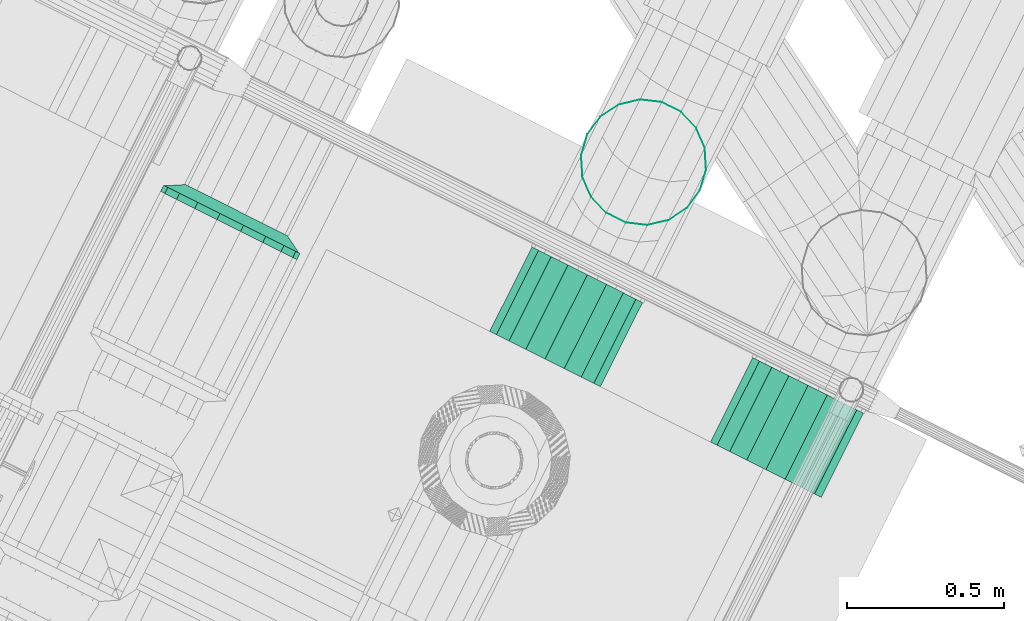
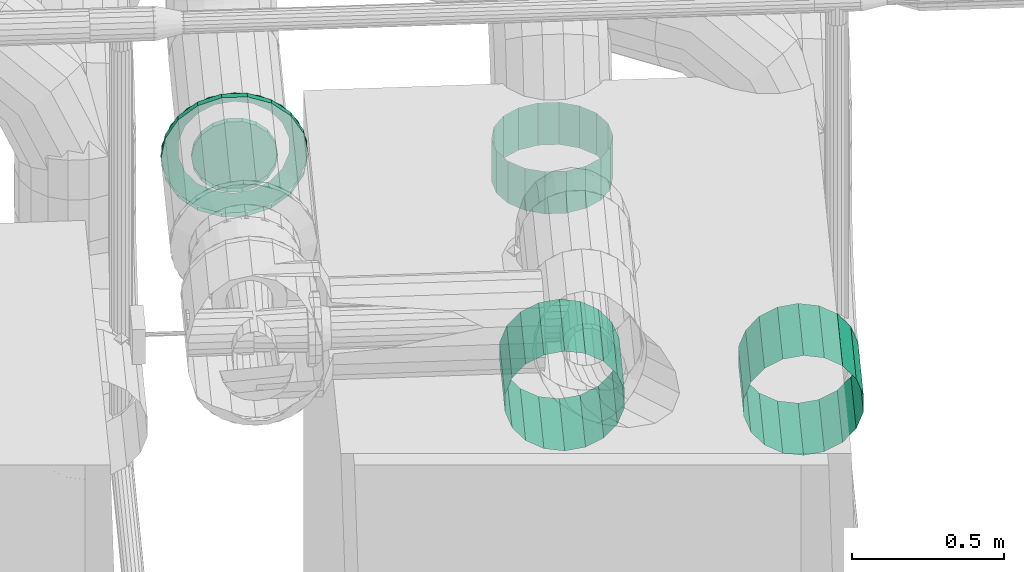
# One storey, part 132 of 206: 5 flow segments, 1 flow fitting.
"""IFC2X3 building model written with IfcOpenShell, lengths in metres."""

from ifc_helpers import new_model, si_unit, derived_unit, direction, frame, origin, place, context, subcontext, project, spatial, face_set, surface_model, source, transform, mapped, material, type_object, type_shapes, element, save


model = new_model("IFC2X3")

# Units and contexts
model_context = context("Model", 3, precision=5.2338327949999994e-05, world=origin(), true_north=direction((0.0, 1.0)))
body_context = subcontext(model_context, "Body", "Model", "MODEL_VIEW")
ifc_project = project(units=[si_unit("LENGTHUNIT", "METRE"), si_unit("AREAUNIT", "SQUARE_METRE"), si_unit("VOLUMEUNIT", "CUBIC_METRE"), si_unit("MASSUNIT", "GRAM", prefix="KILO"), si_unit("PLANEANGLEUNIT", "RADIAN"), derived_unit("THERMALTRANSMITTANCEUNIT", [(si_unit("MASSUNIT", "GRAM", prefix="KILO"), 1), (si_unit("THERMODYNAMICTEMPERATUREUNIT", "KELVIN"), -1), (si_unit("TIMEUNIT", "SECOND"), -3)])], contexts=[model_context])

# Site, building, storey
site_placement = place(None, frame((0.0, 0.0, 0.0), z_axis=(0.0, 0.0, 1.0), x_axis=(0.8939966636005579, -0.4480736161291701, 0.0)))
site = spatial("IfcSite", under=ifc_project, at=site_placement, Name="Default", CompositionType="ELEMENT")
building_placement = place(site_placement, origin())
building = spatial("IfcBuilding", under=site, at=building_placement, CompositionType="ELEMENT")
storey_placement = place(building_placement, origin())
storey = spatial("IfcBuildingStorey", under=building, at=storey_placement, Name="Erdgeschoss", CompositionType="ELEMENT", Elevation=0.0)

# Flow segments
ifc_material_1 = material(Name="IfcSurfaceStyle #251447")
distribution_element_type_1 = type_object("IfcDistributionElementType", material=ifc_material_1)
shared_shape_1 = source(origin(), body_context, "Body", "SurfaceModel", [
    surface_model("IfcFaceBasedSurfaceModel", [(27.31550898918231, 7.728208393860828, 1.4300000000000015), (27.38391301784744, 7.728208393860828, 1.4179385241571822), (27.38391301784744, 8.028208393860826, 1.417938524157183), (27.315508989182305, 8.028208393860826, 1.4300000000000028), (27.444066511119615, 7.728208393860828, 1.3832088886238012), (27.444066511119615, 8.028208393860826, 1.3832088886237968), (27.488714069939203, 7.728208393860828, 1.3300000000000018), (27.488714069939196, 8.028208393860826, 1.3299999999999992), (27.512470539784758, 7.728208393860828, 1.2647296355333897), (27.512470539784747, 8.028208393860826, 1.2647296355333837), (27.512470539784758, 7.728208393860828, 1.1952703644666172), (27.512470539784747, 8.028208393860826, 1.1952703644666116), (27.488714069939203, 7.728208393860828, 1.1300000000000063), (27.48871406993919, 8.028208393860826, 1.1300000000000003), (27.444066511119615, 7.728208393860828, 1.0767911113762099), (27.444066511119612, 8.028208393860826, 1.0767911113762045), (27.383913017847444, 7.728208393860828, 1.0420614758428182), (27.383913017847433, 8.028208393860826, 1.042061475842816), (27.315508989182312, 7.728208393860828, 1.0299999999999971), (27.3155089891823, 8.028208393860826, 1.0300000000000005), (27.24710496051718, 7.728208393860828, 1.0420614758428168), (27.24710496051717, 8.028208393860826, 1.0420614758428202), (27.186951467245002, 7.728208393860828, 1.076791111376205), (27.186951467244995, 8.028208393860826, 1.0767911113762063), (27.142303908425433, 7.728208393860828, 1.129999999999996), (27.14230390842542, 8.028208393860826, 1.1300000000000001), (27.11854743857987, 7.728208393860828, 1.19527036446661), (27.118547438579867, 8.028208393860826, 1.1952703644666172), (27.11854743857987, 7.728208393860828, 1.2647296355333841), (27.118547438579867, 8.028208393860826, 1.2647296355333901), (27.142303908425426, 7.728208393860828, 1.3299999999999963), (27.14230390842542, 8.028208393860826, 1.3300000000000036), (27.186951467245, 7.728208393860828, 1.383208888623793), (27.186951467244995, 8.028208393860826, 1.3832088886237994), (27.247104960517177, 7.728208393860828, 1.4179385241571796), (27.247104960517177, 8.028208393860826, 1.417938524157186)], [face_set([[[0, 1, 2, 3]], [[1, 4, 5, 2]], [[4, 6, 7, 5]], [[6, 8, 9, 7]], [[8, 10, 11, 9]], [[10, 12, 13, 11]], [[12, 14, 15, 13]], [[14, 16, 17, 15]], [[16, 18, 19, 17]], [[18, 20, 21, 19]], [[20, 22, 23, 21]], [[22, 24, 25, 23]], [[24, 26, 27, 25]], [[26, 28, 29, 27]], [[28, 30, 31, 29]], [[30, 32, 33, 31]], [[32, 34, 35, 33]], [[34, 0, 3, 35]]])]),
])
type_shapes(distribution_element_type_1, [shared_shape_1])
flow_segment_1_placement = place(storey_placement, origin())
element("IfcFlowSegment", 1, at=flow_segment_1_placement, inside=storey, type_object=distribution_element_type_1, material=ifc_material_1, Name="Wickelfalzrohr", ObjectType="Wickelfalzrohr", context=body_context, shape_type="MappedRepresentation", body=[
    mapped(shared_shape_1, transform((0.0, 0.0, 0.0), scale=1.0)),
])
distribution_element_type_2 = type_object("IfcDistributionElementType", material=ifc_material_1)
shared_shape_2 = source(origin(), body_context, "Body", "SurfaceModel", [
    surface_model("IfcFaceBasedSurfaceModel", [(27.31550898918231, 7.728208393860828, 1.4300000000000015), (27.38391301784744, 7.728208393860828, 1.4179385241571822), (27.38391301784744, 8.028208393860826, 1.417938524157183), (27.315508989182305, 8.028208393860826, 1.4300000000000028), (27.444066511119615, 7.728208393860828, 1.3832088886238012), (27.444066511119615, 8.028208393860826, 1.3832088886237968), (27.488714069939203, 7.728208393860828, 1.3300000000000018), (27.488714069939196, 8.028208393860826, 1.3299999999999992), (27.512470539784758, 7.728208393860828, 1.2647296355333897), (27.512470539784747, 8.028208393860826, 1.2647296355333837), (27.512470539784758, 7.728208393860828, 1.1952703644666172), (27.512470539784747, 8.028208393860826, 1.1952703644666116), (27.488714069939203, 7.728208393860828, 1.1300000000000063), (27.48871406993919, 8.028208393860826, 1.1300000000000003), (27.444066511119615, 7.728208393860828, 1.0767911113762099), (27.444066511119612, 8.028208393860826, 1.0767911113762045), (27.383913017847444, 7.728208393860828, 1.0420614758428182), (27.383913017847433, 8.028208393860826, 1.042061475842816), (27.315508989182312, 7.728208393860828, 1.0299999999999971), (27.3155089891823, 8.028208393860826, 1.0300000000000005), (27.24710496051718, 7.728208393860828, 1.0420614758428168), (27.24710496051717, 8.028208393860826, 1.0420614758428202), (27.186951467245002, 7.728208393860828, 1.076791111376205), (27.186951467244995, 8.028208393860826, 1.0767911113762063), (27.142303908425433, 7.728208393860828, 1.129999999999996), (27.14230390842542, 8.028208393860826, 1.1300000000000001), (27.11854743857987, 7.728208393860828, 1.19527036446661), (27.118547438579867, 8.028208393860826, 1.1952703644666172), (27.11854743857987, 7.728208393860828, 1.2647296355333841), (27.118547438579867, 8.028208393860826, 1.2647296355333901), (27.142303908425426, 7.728208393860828, 1.3299999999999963), (27.14230390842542, 8.028208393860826, 1.3300000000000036), (27.186951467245, 7.728208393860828, 1.383208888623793), (27.186951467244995, 8.028208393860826, 1.3832088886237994), (27.247104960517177, 7.728208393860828, 1.4179385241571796), (27.247104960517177, 8.028208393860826, 1.417938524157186)], [face_set([[[0, 1, 2, 3]], [[1, 4, 5, 2]], [[4, 6, 7, 5]], [[6, 8, 9, 7]], [[8, 10, 11, 9]], [[10, 12, 13, 11]], [[12, 14, 15, 13]], [[14, 16, 17, 15]], [[16, 18, 19, 17]], [[18, 20, 21, 19]], [[20, 22, 23, 21]], [[22, 24, 25, 23]], [[24, 26, 27, 25]], [[26, 28, 29, 27]], [[28, 30, 31, 29]], [[30, 32, 33, 31]], [[32, 34, 35, 33]], [[34, 0, 3, 35]]])]),
])
type_shapes(distribution_element_type_2, [shared_shape_2])
flow_segment_2_placement = place(storey_placement, origin())
element("IfcFlowSegment", 2, at=flow_segment_2_placement, inside=storey, type_object=distribution_element_type_2, material=ifc_material_1, Name="Wickelfalzrohr", ObjectType="Wickelfalzrohr", context=body_context, shape_type="MappedRepresentation", body=[
    mapped(shared_shape_2, transform((0.0, 0.0, 0.0), scale=1.0)),
])

# Flow fitting
ifc_material_2 = material(Name="IfcSurfaceStyle #1741")
distribution_element_type_3 = type_object("IfcDistributionElementType", Name="Flansch 614559:Flansch 614559", material=ifc_material_2)
shared_shape_3 = source(origin(), body_context, "Body", "SurfaceModel", [
    surface_model("IfcFaceBasedSurfaceModel", [(25.29735543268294, 7.656892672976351, 2.354), (25.30594923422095, 7.656892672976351, 2.4027378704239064), (25.30594923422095, 7.678892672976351, 2.4027378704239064), (25.29735543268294, 7.678892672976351, 2.354), (25.330694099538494, 7.656892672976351, 2.4455972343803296), (25.330694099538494, 7.678892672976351, 2.4455972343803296), (25.368605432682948, 7.656892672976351, 2.4774086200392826), (25.368605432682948, 7.678892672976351, 2.4774086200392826), (25.41511056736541, 7.656892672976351, 2.49433510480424), (25.41511056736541, 7.678892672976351, 2.49433510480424), (25.464600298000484, 7.656892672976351, 2.4943351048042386), (25.464600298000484, 7.678892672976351, 2.4943351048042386), (25.511105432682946, 7.656892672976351, 2.4774086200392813), (25.511105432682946, 7.678892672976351, 2.4774086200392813), (25.549016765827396, 7.656892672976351, 2.4455972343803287), (25.549016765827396, 7.678892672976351, 2.4455972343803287), (25.573761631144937, 7.656892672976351, 2.4027378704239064), (25.573761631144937, 7.678892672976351, 2.4027378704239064), (25.58235543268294, 7.656892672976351, 2.353999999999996), (25.58235543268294, 7.678892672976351, 2.353999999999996), (25.573761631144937, 7.656892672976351, 2.30526212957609), (25.573761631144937, 7.678892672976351, 2.30526212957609), (25.549016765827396, 7.656892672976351, 2.2624027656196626), (25.549016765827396, 7.678892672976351, 2.2624027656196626), (25.511105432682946, 7.656892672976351, 2.230591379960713), (25.511105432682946, 7.678892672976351, 2.230591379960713), (25.46460029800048, 7.656892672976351, 2.213664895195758), (25.46460029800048, 7.678892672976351, 2.213664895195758), (25.415110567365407, 7.656892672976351, 2.213664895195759), (25.415110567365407, 7.678892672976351, 2.213664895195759), (25.368605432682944, 7.656892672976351, 2.230591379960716), (25.368605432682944, 7.678892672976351, 2.230591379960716), (25.330694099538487, 7.656892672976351, 2.262402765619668), (25.330694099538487, 7.678892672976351, 2.262402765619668), (25.305949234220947, 7.656892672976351, 2.3052621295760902), (25.305949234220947, 7.678892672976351, 2.3052621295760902), (25.439855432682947, 7.6788926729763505, 2.3539999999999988), (25.43985543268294, 7.678892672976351, 2.4459999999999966), (25.471321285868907, 7.678892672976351, 2.440451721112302), (25.4686364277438, 7.711892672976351, 2.433075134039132), (25.439855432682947, 7.711892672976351, 2.438149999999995), (25.498991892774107, 7.678892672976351, 2.4244760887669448), (25.493946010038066, 7.711892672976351, 2.4184626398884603), (25.519529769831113, 7.678892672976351, 2.399999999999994), (25.512731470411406, 7.711892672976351, 2.3960749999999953), (25.530457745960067, 7.678892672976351, 2.369975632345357), (25.522727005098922, 7.711892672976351, 2.368612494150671), (25.530457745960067, 7.678892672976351, 2.338024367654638), (25.522727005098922, 7.711892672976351, 2.3393875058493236), (25.519529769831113, 7.678892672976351, 2.3079999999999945), (25.512731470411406, 7.711892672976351, 2.3119249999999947), (25.498991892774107, 7.678892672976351, 2.2835239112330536), (25.493946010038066, 7.711892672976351, 2.2895373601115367), (25.471321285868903, 7.678892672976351, 2.267548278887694), (25.4686364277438, 7.711892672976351, 2.2749248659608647), (25.43985543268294, 7.678892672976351, 2.2619999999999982), (25.43985543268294, 7.711892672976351, 2.2698499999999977), (25.40838957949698, 7.678892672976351, 2.2675482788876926), (25.411074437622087, 7.711892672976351, 2.2749248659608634), (25.38071897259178, 7.678892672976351, 2.2835239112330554), (25.385764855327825, 7.711892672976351, 2.289537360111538), (25.360181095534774, 7.678892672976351, 2.307999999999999), (25.366979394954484, 7.711892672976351, 2.311924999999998), (25.349253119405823, 7.678892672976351, 2.3380243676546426), (25.356983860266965, 7.711892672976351, 2.3393875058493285), (25.349253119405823, 7.678892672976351, 2.3699756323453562), (25.356983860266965, 7.711892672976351, 2.3686124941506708), (25.360181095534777, 7.678892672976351, 2.4000000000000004), (25.366979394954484, 7.711892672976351, 2.3960749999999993), (25.38071897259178, 7.678892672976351, 2.424476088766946), (25.385764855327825, 7.711892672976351, 2.418462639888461), (25.408389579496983, 7.678892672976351, 2.4404517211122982), (25.41107443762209, 7.711892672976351, 2.4330751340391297), (25.197355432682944, 7.656892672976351, 2.3540000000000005), (25.21197997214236, 7.656892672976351, 2.4369398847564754), (25.21197997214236, 7.678892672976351, 2.4369398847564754), (25.197355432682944, 7.678892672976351, 2.3540000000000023), (25.254089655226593, 7.656892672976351, 2.5098759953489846), (25.254089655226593, 7.678892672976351, 2.5098759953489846), (25.318605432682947, 7.656892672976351, 2.564011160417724), (25.318605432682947, 7.678892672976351, 2.564011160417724), (25.397745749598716, 7.656892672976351, 2.5928158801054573), (25.397745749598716, 7.678892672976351, 2.5928158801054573), (25.481965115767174, 7.656892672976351, 2.592815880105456), (25.481965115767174, 7.678892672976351, 2.592815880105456), (25.561105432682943, 7.656892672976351, 2.5640111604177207), (25.561105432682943, 7.678892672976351, 2.5640111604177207), (25.625621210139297, 7.656892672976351, 2.5098759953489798), (25.625621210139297, 7.678892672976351, 2.5098759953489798), (25.667730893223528, 7.656892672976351, 2.4369398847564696), (25.667730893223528, 7.678892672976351, 2.4369398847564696), (25.682355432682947, 7.656892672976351, 2.3539999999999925), (25.682355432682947, 7.678892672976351, 2.3539999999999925), (25.667730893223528, 7.656892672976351, 2.2710601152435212), (25.667730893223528, 7.678892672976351, 2.2710601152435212), (25.625621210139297, 7.656892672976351, 2.1981240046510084), (25.625621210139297, 7.678892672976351, 2.1981240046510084), (25.561105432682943, 7.656892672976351, 2.143988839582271), (25.561105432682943, 7.678892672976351, 2.143988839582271), (25.48196511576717, 7.656892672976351, 2.115184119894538), (25.48196511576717, 7.678892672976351, 2.115184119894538), (25.397745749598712, 7.656892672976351, 2.1151841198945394), (25.397745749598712, 7.678892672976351, 2.1151841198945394), (25.318605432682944, 7.656892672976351, 2.143988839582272), (25.318605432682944, 7.678892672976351, 2.143988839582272), (25.254089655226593, 7.656892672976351, 2.1981240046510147), (25.254089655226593, 7.678892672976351, 2.1981240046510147), (25.21197997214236, 7.656892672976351, 2.2710601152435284), (25.21197997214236, 7.678892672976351, 2.2710601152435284), (25.439855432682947, 7.678892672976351, 2.5964999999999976), (25.522795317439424, 7.678892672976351, 2.5818754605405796), (25.502838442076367, 7.711892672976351, 2.527044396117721), (25.439855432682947, 7.711892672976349, 2.5381499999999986), (25.595731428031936, 7.678892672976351, 2.5397657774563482), (25.55822477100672, 7.711892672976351, 2.4950670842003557), (25.649866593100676, 7.678892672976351, 2.475249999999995), (25.599334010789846, 7.711892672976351, 2.4460749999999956), (25.678671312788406, 7.6788926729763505, 2.3961096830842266), (25.621207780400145, 7.711892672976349, 2.3859773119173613), (25.678671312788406, 7.678892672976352, 2.3118903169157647), (25.62120778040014, 7.711892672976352, 2.3220226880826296), (25.64986659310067, 7.678892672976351, 2.232749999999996), (25.599334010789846, 7.711892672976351, 2.2619249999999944), (25.59573142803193, 7.678892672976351, 2.168234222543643), (25.55822477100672, 7.711892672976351, 2.2129329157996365), (25.522795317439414, 7.6788926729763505, 2.126124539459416), (25.502838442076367, 7.711892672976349, 2.1809556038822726), (25.43985543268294, 7.678892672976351, 2.111499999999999), (25.43985543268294, 7.711892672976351, 2.1698499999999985), (25.35691554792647, 7.678892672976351, 2.1261245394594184), (25.376872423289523, 7.711892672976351, 2.1809556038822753), (25.283979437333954, 7.678892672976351, 2.1682342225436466), (25.32148609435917, 7.711892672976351, 2.212932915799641), (25.229844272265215, 7.678892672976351, 2.232750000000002), (25.28037685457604, 7.711892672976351, 2.2619249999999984), (25.20103955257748, 7.678892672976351, 2.31189031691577), (25.258503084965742, 7.711892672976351, 2.322022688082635), (25.20103955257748, 7.678892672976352, 2.396109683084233), (25.258503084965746, 7.711892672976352, 2.3859773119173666), (25.22984427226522, 7.678892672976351, 2.475250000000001), (25.280376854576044, 7.711892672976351, 2.446075), (25.283979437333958, 7.678892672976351, 2.539765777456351), (25.32148609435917, 7.711892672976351, 2.49506708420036), (25.356915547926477, 7.678892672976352, 2.581875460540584), (25.376872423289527, 7.711892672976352, 2.5270443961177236)], [face_set([[[0, 1, 2, 3]], [[1, 4, 5, 2]], [[4, 6, 7, 5]], [[6, 8, 9, 7]], [[8, 10, 11, 9]], [[10, 12, 13, 11]], [[12, 14, 15, 13]], [[14, 16, 17, 15]], [[16, 18, 19, 17]], [[18, 20, 21, 19]], [[20, 22, 23, 21]], [[22, 24, 25, 23]], [[24, 26, 27, 25]], [[26, 28, 29, 27]], [[28, 30, 31, 29]], [[30, 32, 33, 31]], [[32, 34, 35, 33]], [[34, 0, 3, 35]], [[36, 35, 3]], [[36, 33, 35]], [[36, 31, 33]], [[36, 29, 31]], [[36, 27, 29]], [[36, 25, 27]], [[36, 23, 25]], [[36, 21, 23]], [[36, 19, 21]], [[36, 17, 19]], [[36, 15, 17]], [[36, 13, 15]], [[36, 11, 13]], [[36, 9, 11]], [[36, 7, 9]], [[36, 5, 7]], [[36, 2, 5]], [[36, 3, 2]], [[37, 38, 39, 40]], [[38, 41, 42, 39]], [[41, 43, 44, 42]], [[43, 45, 46, 44]], [[45, 47, 48, 46]], [[47, 49, 50, 48]], [[49, 51, 52, 50]], [[51, 53, 54, 52]], [[53, 55, 56, 54]], [[55, 57, 58, 56]], [[57, 59, 60, 58]], [[59, 61, 62, 60]], [[61, 63, 64, 62]], [[63, 65, 66, 64]], [[65, 67, 68, 66]], [[67, 69, 70, 68]], [[69, 71, 72, 70]], [[71, 37, 40, 72]], [[73, 74, 75, 76]], [[74, 77, 78, 75]], [[77, 79, 80, 78]], [[79, 81, 82, 80]], [[81, 83, 84, 82]], [[83, 85, 86, 84]], [[85, 87, 88, 86]], [[87, 89, 90, 88]], [[89, 91, 92, 90]], [[91, 93, 94, 92]], [[93, 95, 96, 94]], [[95, 97, 98, 96]], [[97, 99, 100, 98]], [[99, 101, 102, 100]], [[101, 103, 104, 102]], [[103, 105, 106, 104]], [[105, 107, 108, 106]], [[107, 73, 76, 108]], [[109, 110, 111, 112]], [[110, 113, 114, 111]], [[113, 115, 116, 114]], [[115, 117, 118, 116]], [[117, 119, 120, 118]], [[119, 121, 122, 120]], [[121, 123, 124, 122]], [[123, 125, 126, 124]], [[125, 127, 128, 126]], [[127, 129, 130, 128]], [[129, 131, 132, 130]], [[131, 133, 134, 132]], [[133, 135, 136, 134]], [[135, 137, 138, 136]], [[137, 139, 140, 138]], [[139, 141, 142, 140]], [[141, 143, 144, 142]], [[143, 109, 112, 144]]])]),
])
type_shapes(distribution_element_type_3, [shared_shape_3])
flow_fitting_placement = place(storey_placement, origin())
element("IfcFlowFitting", 3, at=flow_fitting_placement, inside=storey, type_object=distribution_element_type_3, material=ifc_material_2, Name="Flansch", ObjectType="Flansch", context=body_context, shape_type="MappedRepresentation", body=[
    mapped(shared_shape_3, transform((0.0, 0.0, 0.0), scale=1.0)),
])

# Flow segments
distribution_element_type_4 = type_object("IfcDistributionElementType", Name="Wickelfalzrohr 621923:Wickelfalzrohr 621923", material=ifc_material_1)
shared_shape_4 = source(origin(), body_context, "Body", "SurfaceModel", [
    surface_model("IfcFaceBasedSurfaceModel", [(26.72982323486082, 8.428208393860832, 1.6799999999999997), (26.717761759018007, 8.496612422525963, 1.6799999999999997), (26.717761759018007, 8.496612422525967, 1.8499999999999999), (26.72982323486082, 8.428208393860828, 1.8499999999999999), (26.68303212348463, 8.556765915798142, 1.6799999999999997), (26.68303212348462, 8.556765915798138, 1.8499999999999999), (26.629823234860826, 8.601413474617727, 1.6799999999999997), (26.629823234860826, 8.60141347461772, 1.8499999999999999), (26.564552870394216, 8.62516994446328, 1.6799999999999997), (26.56455287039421, 8.625169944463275, 1.8499999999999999), (26.49509359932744, 8.625169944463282, 1.6799999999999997), (26.49509359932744, 8.625169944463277, 1.8499999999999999), (26.429823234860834, 8.601413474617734, 1.6799999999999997), (26.42982323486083, 8.601413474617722, 1.8499999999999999), (26.376614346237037, 8.556765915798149, 1.6799999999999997), (26.376614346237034, 8.556765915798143, 1.8499999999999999), (26.341884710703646, 8.496612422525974, 1.6799999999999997), (26.341884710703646, 8.496612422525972, 1.8499999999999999), (26.329823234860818, 8.428208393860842, 1.6799999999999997), (26.329823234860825, 8.428208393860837, 1.8499999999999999), (26.341884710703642, 8.35980436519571, 1.6799999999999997), (26.341884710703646, 8.359804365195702, 1.8499999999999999), (26.376614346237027, 8.29965087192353, 1.6799999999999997), (26.376614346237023, 8.299650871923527, 1.8499999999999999), (26.42982323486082, 8.25500331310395, 1.6799999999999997), (26.429823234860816, 8.255003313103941, 1.8499999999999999), (26.495093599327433, 8.2312468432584, 1.6799999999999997), (26.495093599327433, 8.23124684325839, 1.8499999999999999), (26.564552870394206, 8.231246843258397, 1.6799999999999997), (26.564552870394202, 8.23124684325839, 1.8499999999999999), (26.62982323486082, 8.25500331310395, 1.6799999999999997), (26.62982323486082, 8.255003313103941, 1.8499999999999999), (26.683032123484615, 8.299650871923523, 1.6799999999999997), (26.683032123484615, 8.29965087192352, 1.8499999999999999), (26.717761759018, 8.3598043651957, 1.6799999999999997), (26.717761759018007, 8.359804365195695, 1.8499999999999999)], [face_set([[[0, 1, 2, 3]], [[1, 4, 5, 2]], [[4, 6, 7, 5]], [[6, 8, 9, 7]], [[8, 10, 11, 9]], [[10, 12, 13, 11]], [[12, 14, 15, 13]], [[14, 16, 17, 15]], [[16, 18, 19, 17]], [[18, 20, 21, 19]], [[20, 22, 23, 21]], [[22, 24, 25, 23]], [[24, 26, 27, 25]], [[26, 28, 29, 27]], [[28, 30, 31, 29]], [[30, 32, 33, 31]], [[32, 34, 35, 33]], [[34, 0, 3, 35]]])]),
])
type_shapes(distribution_element_type_4, [shared_shape_4])
flow_segment_3_placement = place(storey_placement, origin())
element("IfcFlowSegment", 4, at=flow_segment_3_placement, inside=storey, type_object=distribution_element_type_4, material=ifc_material_1, Name="Wickelfalzrohr", ObjectType="Wickelfalzrohr", context=body_context, shape_type="MappedRepresentation", body=[
    mapped(shared_shape_4, transform((0.0, 0.0, 0.0), scale=1.0)),
])
distribution_element_type_5 = type_object("IfcDistributionElementType", material=ifc_material_1)
shared_shape_5 = source(origin(), body_context, "Body", "SurfaceModel", [
    surface_model("IfcFaceBasedSurfaceModel", [(26.529823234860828, 7.728208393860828, 1.4800000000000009), (26.59822726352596, 7.728208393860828, 1.4679385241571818), (26.59822726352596, 8.028208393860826, 1.4679385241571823), (26.529823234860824, 8.028208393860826, 1.480000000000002), (26.658380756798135, 7.728208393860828, 1.433208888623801), (26.658380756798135, 8.028208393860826, 1.4332088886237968), (26.703028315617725, 7.728208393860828, 1.3800000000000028), (26.70302831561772, 8.028208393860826, 1.38), (26.72678478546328, 7.728208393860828, 1.3147296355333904), (26.72678478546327, 8.028208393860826, 1.3147296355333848), (26.72678478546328, 7.728208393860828, 1.2452703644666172), (26.72678478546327, 8.028208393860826, 1.2452703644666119), (26.703028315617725, 7.728208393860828, 1.1800000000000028), (26.703028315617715, 8.028208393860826, 1.1799999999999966), (26.658380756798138, 7.728208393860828, 1.1267911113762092), (26.658380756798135, 8.028208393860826, 1.1267911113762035), (26.598227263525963, 7.728208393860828, 1.092061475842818), (26.598227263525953, 8.028208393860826, 1.0920614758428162), (26.52982323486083, 7.728208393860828, 1.079999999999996), (26.52982323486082, 8.028208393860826, 1.08), (26.4614192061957, 7.728208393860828, 1.092061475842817), (26.46141920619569, 8.028208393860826, 1.0920614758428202), (26.40126571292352, 7.728208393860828, 1.126791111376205), (26.401265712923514, 8.028208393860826, 1.1267911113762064), (26.356618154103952, 7.728208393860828, 1.18), (26.356618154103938, 8.028208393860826, 1.1800000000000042), (26.332861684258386, 7.728208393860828, 1.2452703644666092), (26.332861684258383, 8.028208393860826, 1.2452703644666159), (26.332861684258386, 7.728208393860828, 1.3147296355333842), (26.332861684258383, 8.028208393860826, 1.3147296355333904), (26.356618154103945, 7.728208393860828, 1.3799999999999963), (26.356618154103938, 8.028208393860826, 1.3800000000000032), (26.40126571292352, 7.728208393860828, 1.433208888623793), (26.401265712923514, 8.028208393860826, 1.4332088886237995), (26.461419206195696, 7.728208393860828, 1.4679385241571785), (26.461419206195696, 8.028208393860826, 1.4679385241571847)], [face_set([[[0, 1, 2, 3]], [[1, 4, 5, 2]], [[4, 6, 7, 5]], [[6, 8, 9, 7]], [[8, 10, 11, 9]], [[10, 12, 13, 11]], [[12, 14, 15, 13]], [[14, 16, 17, 15]], [[16, 18, 19, 17]], [[18, 20, 21, 19]], [[20, 22, 23, 21]], [[22, 24, 25, 23]], [[24, 26, 27, 25]], [[26, 28, 29, 27]], [[28, 30, 31, 29]], [[30, 32, 33, 31]], [[32, 34, 35, 33]], [[34, 0, 3, 35]]])]),
])
type_shapes(distribution_element_type_5, [shared_shape_5])
flow_segment_4_placement = place(storey_placement, origin())
element("IfcFlowSegment", 5, at=flow_segment_4_placement, inside=storey, type_object=distribution_element_type_5, material=ifc_material_1, Name="Wickelfalzrohr", ObjectType="Wickelfalzrohr", context=body_context, shape_type="MappedRepresentation", body=[
    mapped(shared_shape_5, transform((0.0, 0.0, 0.0), scale=1.0)),
])
distribution_element_type_6 = type_object("IfcDistributionElementType", material=ifc_material_1)
shared_shape_6 = source(origin(), body_context, "Body", "SurfaceModel", [
    surface_model("IfcFaceBasedSurfaceModel", [(26.529823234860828, 7.728208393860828, 1.4800000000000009), (26.59822726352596, 7.728208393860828, 1.4679385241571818), (26.59822726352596, 8.028208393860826, 1.4679385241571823), (26.529823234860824, 8.028208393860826, 1.480000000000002), (26.658380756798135, 7.728208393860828, 1.433208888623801), (26.658380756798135, 8.028208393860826, 1.4332088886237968), (26.703028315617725, 7.728208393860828, 1.3800000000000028), (26.70302831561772, 8.028208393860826, 1.38), (26.72678478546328, 7.728208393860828, 1.3147296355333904), (26.72678478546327, 8.028208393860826, 1.3147296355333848), (26.72678478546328, 7.728208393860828, 1.2452703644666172), (26.72678478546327, 8.028208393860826, 1.2452703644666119), (26.703028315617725, 7.728208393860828, 1.1800000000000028), (26.703028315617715, 8.028208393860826, 1.1799999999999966), (26.658380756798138, 7.728208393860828, 1.1267911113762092), (26.658380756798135, 8.028208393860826, 1.1267911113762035), (26.598227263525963, 7.728208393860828, 1.092061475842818), (26.598227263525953, 8.028208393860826, 1.0920614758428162), (26.52982323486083, 7.728208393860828, 1.079999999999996), (26.52982323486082, 8.028208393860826, 1.08), (26.4614192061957, 7.728208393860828, 1.092061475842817), (26.46141920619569, 8.028208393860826, 1.0920614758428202), (26.40126571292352, 7.728208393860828, 1.126791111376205), (26.401265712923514, 8.028208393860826, 1.1267911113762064), (26.356618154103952, 7.728208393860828, 1.18), (26.356618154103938, 8.028208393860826, 1.1800000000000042), (26.332861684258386, 7.728208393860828, 1.2452703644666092), (26.332861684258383, 8.028208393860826, 1.2452703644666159), (26.332861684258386, 7.728208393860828, 1.3147296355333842), (26.332861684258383, 8.028208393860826, 1.3147296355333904), (26.356618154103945, 7.728208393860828, 1.3799999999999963), (26.356618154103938, 8.028208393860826, 1.3800000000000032), (26.40126571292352, 7.728208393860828, 1.433208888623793), (26.401265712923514, 8.028208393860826, 1.4332088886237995), (26.461419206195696, 7.728208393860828, 1.4679385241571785), (26.461419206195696, 8.028208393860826, 1.4679385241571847)], [face_set([[[0, 1, 2, 3]], [[1, 4, 5, 2]], [[4, 6, 7, 5]], [[6, 8, 9, 7]], [[8, 10, 11, 9]], [[10, 12, 13, 11]], [[12, 14, 15, 13]], [[14, 16, 17, 15]], [[16, 18, 19, 17]], [[18, 20, 21, 19]], [[20, 22, 23, 21]], [[22, 24, 25, 23]], [[24, 26, 27, 25]], [[26, 28, 29, 27]], [[28, 30, 31, 29]], [[30, 32, 33, 31]], [[32, 34, 35, 33]], [[34, 0, 3, 35]]])]),
])
type_shapes(distribution_element_type_6, [shared_shape_6])
flow_segment_5_placement = place(storey_placement, origin())
element("IfcFlowSegment", 6, at=flow_segment_5_placement, inside=storey, type_object=distribution_element_type_6, material=ifc_material_1, Name="Wickelfalzrohr", ObjectType="Wickelfalzrohr", context=body_context, shape_type="MappedRepresentation", body=[
    mapped(shared_shape_6, transform((0.0, 0.0, 0.0), scale=1.0)),
])

save(model, "model.ifc")
